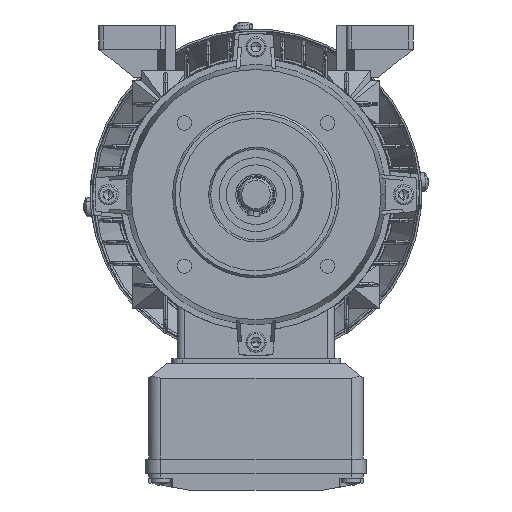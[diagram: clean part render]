
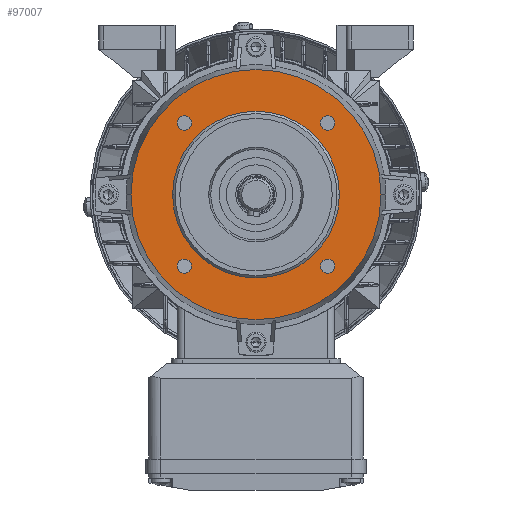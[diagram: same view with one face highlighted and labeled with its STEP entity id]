
A CAD part, front view. The second image highlights one B-rep face of the part: STEP entity #97007.
In plain terms, the highlighted planar face has unit normal (0, -1, 0).
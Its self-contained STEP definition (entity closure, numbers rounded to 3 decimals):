
#760 = EDGE_CURVE ( 'NONE', #49690, #86574, #12946, .T. ) ;
#1467 = AXIS2_PLACEMENT_3D ( 'NONE', #105209, #16169, #55827 ) ;
#1486 = CARTESIAN_POINT ( 'NONE',  ( 11.669, -101.956, 0. ) ) ;
#2070 = FACE_OUTER_BOUND ( 'NONE', #25466, .T. ) ;
#2236 = CIRCLE ( 'NONE', #43781, 3. ) ;
#2600 = AXIS2_PLACEMENT_3D ( 'NONE', #1486, #101527, #42383 ) ;
#3918 = ORIENTED_EDGE ( 'NONE', *, *, #121427, .T. ) ;
#3977 = AXIS2_PLACEMENT_3D ( 'NONE', #31943, #111219, #30662 ) ;
#4853 = EDGE_CURVE ( 'NONE', #117419, #21333, #2236, .T. ) ;
#7124 = EDGE_LOOP ( 'NONE', ( #53522, #126507 ) ) ;
#7285 = EDGE_CURVE ( 'NONE', #58550, #69714, #40871, .T. ) ;
#9560 = AXIS2_PLACEMENT_3D ( 'NONE', #114942, #113017, #74676 ) ;
#11954 = DIRECTION ( 'NONE',  ( 1., 0., 0. ) ) ;
#12252 = CARTESIAN_POINT ( 'NONE',  ( 44.721, -101.956, 30.052 ) ) ;
#12946 = CIRCLE ( 'NONE', #2600, 52.5 ) ;
#13757 = DIRECTION ( 'NONE',  ( 1., 0., 0. ) ) ;
#14785 = ORIENTED_EDGE ( 'NONE', *, *, #95817, .F. ) ;
#15718 = CARTESIAN_POINT ( 'NONE',  ( -23.331, -101.956, 0. ) ) ;
#16169 = DIRECTION ( 'NONE',  ( 0., 1., 0. ) ) ;
#16806 = DIRECTION ( 'NONE',  ( -1., 0., 0. ) ) ;
#17215 = ORIENTED_EDGE ( 'NONE', *, *, #100804, .F. ) ;
#21333 = VERTEX_POINT ( 'NONE', #74856 ) ;
#22809 = FACE_BOUND ( 'NONE', #108485, .T. ) ;
#24416 = ORIENTED_EDGE ( 'NONE', *, *, #49041, .F. ) ;
#25466 = EDGE_LOOP ( 'NONE', ( #14785, #74925 ) ) ;
#26526 = DIRECTION ( 'NONE',  ( 1., 0., 0. ) ) ;
#28075 = ORIENTED_EDGE ( 'NONE', *, *, #46078, .F. ) ;
#28814 = ORIENTED_EDGE ( 'NONE', *, *, #77740, .F. ) ;
#30662 = DIRECTION ( 'NONE',  ( 1., 0., 0. ) ) ;
#31901 = VERTEX_POINT ( 'NONE', #34124 ) ;
#31943 = CARTESIAN_POINT ( 'NONE',  ( -40.831, -101.956, 0. ) ) ;
#33253 = CARTESIAN_POINT ( 'NONE',  ( 41.721, -101.956, -30.052 ) ) ;
#34124 = CARTESIAN_POINT ( 'NONE',  ( 38.721, -101.956, 30.052 ) ) ;
#37003 = AXIS2_PLACEMENT_3D ( 'NONE', #117779, #108019, #39746 ) ;
#37539 = VERTEX_POINT ( 'NONE', #12252 ) ;
#38114 = VERTEX_POINT ( 'NONE', #98471 ) ;
#38291 = CARTESIAN_POINT ( 'NONE',  ( -18.383, -101.956, 30.052 ) ) ;
#39746 = DIRECTION ( 'NONE',  ( -1., 0., 0. ) ) ;
#40871 = CIRCLE ( 'NONE', #1467, 35. ) ;
#41687 = FACE_BOUND ( 'NONE', #7124, .T. ) ;
#42383 = DIRECTION ( 'NONE',  ( -1., 0., 0. ) ) ;
#43030 = CARTESIAN_POINT ( 'NONE',  ( 41.721, -101.956, 30.052 ) ) ;
#43781 = AXIS2_PLACEMENT_3D ( 'NONE', #75921, #126566, #115524 ) ;
#43971 = CIRCLE ( 'NONE', #48161, 3. ) ;
#44084 = EDGE_CURVE ( 'NONE', #38114, #100678, #122143, .T. ) ;
#46049 = DIRECTION ( 'NONE',  ( 0., 1., 0. ) ) ;
#46078 = EDGE_CURVE ( 'NONE', #31901, #37539, #43971, .T. ) ;
#46400 = EDGE_LOOP ( 'NONE', ( #112376, #17215 ) ) ;
#48161 = AXIS2_PLACEMENT_3D ( 'NONE', #43030, #62543, #72288 ) ;
#49041 = EDGE_CURVE ( 'NONE', #21333, #117419, #79711, .T. ) ;
#49690 = VERTEX_POINT ( 'NONE', #108897 ) ;
#51096 = EDGE_LOOP ( 'NONE', ( #124151, #3918 ) ) ;
#52744 = FACE_BOUND ( 'NONE', #46400, .T. ) ;
#53522 = ORIENTED_EDGE ( 'NONE', *, *, #82154, .F. ) ;
#55810 = CARTESIAN_POINT ( 'NONE',  ( -18.383, -101.956, -30.052 ) ) ;
#55827 = DIRECTION ( 'NONE',  ( -1., 0., 0. ) ) ;
#56534 = VERTEX_POINT ( 'NONE', #73915 ) ;
#57121 = VERTEX_POINT ( 'NONE', #108753 ) ;
#57543 = CARTESIAN_POINT ( 'NONE',  ( 46.669, -101.956, 0. ) ) ;
#57725 = AXIS2_PLACEMENT_3D ( 'NONE', #127270, #46049, #16806 ) ;
#58550 = VERTEX_POINT ( 'NONE', #15718 ) ;
#59090 = DIRECTION ( 'NONE',  ( 0., -1., 0. ) ) ;
#59223 = CARTESIAN_POINT ( 'NONE',  ( 38.721, -101.956, -30.052 ) ) ;
#62543 = DIRECTION ( 'NONE',  ( 0., -1., 0. ) ) ;
#63364 = CIRCLE ( 'NONE', #65513, 3. ) ;
#65513 = AXIS2_PLACEMENT_3D ( 'NONE', #100611, #70707, #111597 ) ;
#69714 = VERTEX_POINT ( 'NONE', #57543 ) ;
#70707 = DIRECTION ( 'NONE',  ( 0., -1., 0. ) ) ;
#71133 = CARTESIAN_POINT ( 'NONE',  ( -18.383, -101.956, 30.052 ) ) ;
#71444 = AXIS2_PLACEMENT_3D ( 'NONE', #33253, #111253, #13757 ) ;
#71612 = FACE_BOUND ( 'NONE', #51096, .T. ) ;
#72288 = DIRECTION ( 'NONE',  ( 1., 0., 0. ) ) ;
#73915 = CARTESIAN_POINT ( 'NONE',  ( -21.383, -101.956, 30.052 ) ) ;
#74676 = DIRECTION ( 'NONE',  ( 1., 0., 0. ) ) ;
#74856 = CARTESIAN_POINT ( 'NONE',  ( 44.721, -101.956, -30.052 ) ) ;
#74925 = ORIENTED_EDGE ( 'NONE', *, *, #760, .F. ) ;
#75921 = CARTESIAN_POINT ( 'NONE',  ( 41.721, -101.956, -30.052 ) ) ;
#77740 = EDGE_CURVE ( 'NONE', #37539, #31901, #63364, .T. ) ;
#79711 = CIRCLE ( 'NONE', #71444, 3. ) ;
#81361 = FACE_BOUND ( 'NONE', #106304, .T. ) ;
#82154 = EDGE_CURVE ( 'NONE', #100678, #38114, #109222, .T. ) ;
#86275 = CARTESIAN_POINT ( 'NONE',  ( -40.831, -101.956, 0. ) ) ;
#86574 = VERTEX_POINT ( 'NONE', #86275 ) ;
#90936 = CIRCLE ( 'NONE', #37003, 52.5 ) ;
#91115 = PLANE ( 'NONE',  #3977 ) ;
#93594 = CIRCLE ( 'NONE', #126704, 3. ) ;
#95443 = DIRECTION ( 'NONE',  ( 0., -1., 0. ) ) ;
#95817 = EDGE_CURVE ( 'NONE', #86574, #49690, #90936, .T. ) ;
#97007 = ADVANCED_FACE ( 'NONE', ( #2070, #52744, #41687, #22809, #81361, #71612 ), #91115, .T. ) ;
#97871 = AXIS2_PLACEMENT_3D ( 'NONE', #71133, #99119, #11954 ) ;
#98471 = CARTESIAN_POINT ( 'NONE',  ( -21.383, -101.956, -30.052 ) ) ;
#98729 = DIRECTION ( 'NONE',  ( 1., 0., 0. ) ) ;
#99119 = DIRECTION ( 'NONE',  ( 0., -1., 0. ) ) ;
#99351 = AXIS2_PLACEMENT_3D ( 'NONE', #55810, #95443, #26526 ) ;
#100611 = CARTESIAN_POINT ( 'NONE',  ( 41.721, -101.956, 30.052 ) ) ;
#100678 = VERTEX_POINT ( 'NONE', #122180 ) ;
#100804 = EDGE_CURVE ( 'NONE', #56534, #57121, #93594, .T. ) ;
#101527 = DIRECTION ( 'NONE',  ( 0., 1., 0. ) ) ;
#105209 = CARTESIAN_POINT ( 'NONE',  ( 11.669, -101.956, 0. ) ) ;
#106258 = ORIENTED_EDGE ( 'NONE', *, *, #4853, .F. ) ;
#106304 = EDGE_LOOP ( 'NONE', ( #28814, #28075 ) ) ;
#108019 = DIRECTION ( 'NONE',  ( 0., 1., 0. ) ) ;
#108485 = EDGE_LOOP ( 'NONE', ( #24416, #106258 ) ) ;
#108753 = CARTESIAN_POINT ( 'NONE',  ( -15.383, -101.956, 30.052 ) ) ;
#108897 = CARTESIAN_POINT ( 'NONE',  ( 64.169, -101.956, 0. ) ) ;
#109222 = CIRCLE ( 'NONE', #9560, 3. ) ;
#111219 = DIRECTION ( 'NONE',  ( 0., -1., 0. ) ) ;
#111253 = DIRECTION ( 'NONE',  ( 0., -1., 0. ) ) ;
#111597 = DIRECTION ( 'NONE',  ( 1., 0., 0. ) ) ;
#112376 = ORIENTED_EDGE ( 'NONE', *, *, #127311, .F. ) ;
#113017 = DIRECTION ( 'NONE',  ( 0., -1., 0. ) ) ;
#113710 = CIRCLE ( 'NONE', #57725, 35. ) ;
#114942 = CARTESIAN_POINT ( 'NONE',  ( -18.383, -101.956, -30.052 ) ) ;
#115524 = DIRECTION ( 'NONE',  ( 1., 0., 0. ) ) ;
#116494 = CIRCLE ( 'NONE', #97871, 3. ) ;
#117419 = VERTEX_POINT ( 'NONE', #59223 ) ;
#117779 = CARTESIAN_POINT ( 'NONE',  ( 11.669, -101.956, 0. ) ) ;
#121427 = EDGE_CURVE ( 'NONE', #69714, #58550, #113710, .T. ) ;
#122143 = CIRCLE ( 'NONE', #99351, 3. ) ;
#122180 = CARTESIAN_POINT ( 'NONE',  ( -15.383, -101.956, -30.052 ) ) ;
#124151 = ORIENTED_EDGE ( 'NONE', *, *, #7285, .T. ) ;
#126507 = ORIENTED_EDGE ( 'NONE', *, *, #44084, .F. ) ;
#126566 = DIRECTION ( 'NONE',  ( 0., -1., 0. ) ) ;
#126704 = AXIS2_PLACEMENT_3D ( 'NONE', #38291, #59090, #98729 ) ;
#127270 = CARTESIAN_POINT ( 'NONE',  ( 11.669, -101.956, 0. ) ) ;
#127311 = EDGE_CURVE ( 'NONE', #57121, #56534, #116494, .T. ) ;
